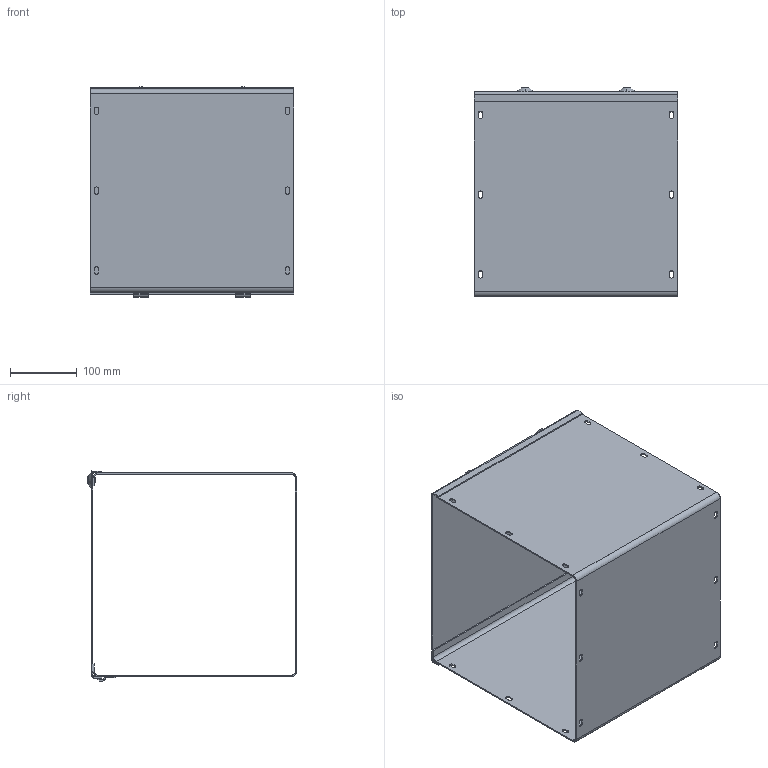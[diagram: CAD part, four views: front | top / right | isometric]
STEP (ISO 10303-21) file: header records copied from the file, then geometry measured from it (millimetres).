
FILE_DESCRIPTION((''),'1');
FILE_NAME('9','2001-04-18T',('jlue'),(''),'PRO/ENGINEER BY PARAMETRIC TECHNOLOGY CORPORATION, 9846','PRO/ENGINEER BY PARAMETRIC TECHNOLOGY CORPORATION, 9846','');
FILE_SCHEMA(('CONFIG_CONTROL_DESIGN'));
Length unit declared in the file: inch
Products named in the file (1): 9
Bounding box: 304.8 x 313.16 x 314.8 mm (x, y, z)
Surface area: 765758.8 mm2 (no closed solid volume)
Topology: 0 solids, 0 shells, 223 faces, 1229 edges, 1234 vertices
Faces by surface type: plane 129, cylinder 78, cone 8, bspline 8
Entity records: 6371 total; most frequent: COMPOSITE_CURVE_SEGMENT 1224, DIRECTION 1223, CARTESIAN_POINT 1112, TRIMMED_CURVE 611, VECTOR 429, LINE 429, AXIS2_PLACEMENT_3D 397, CURVE_BOUNDED_SURFACE 223
